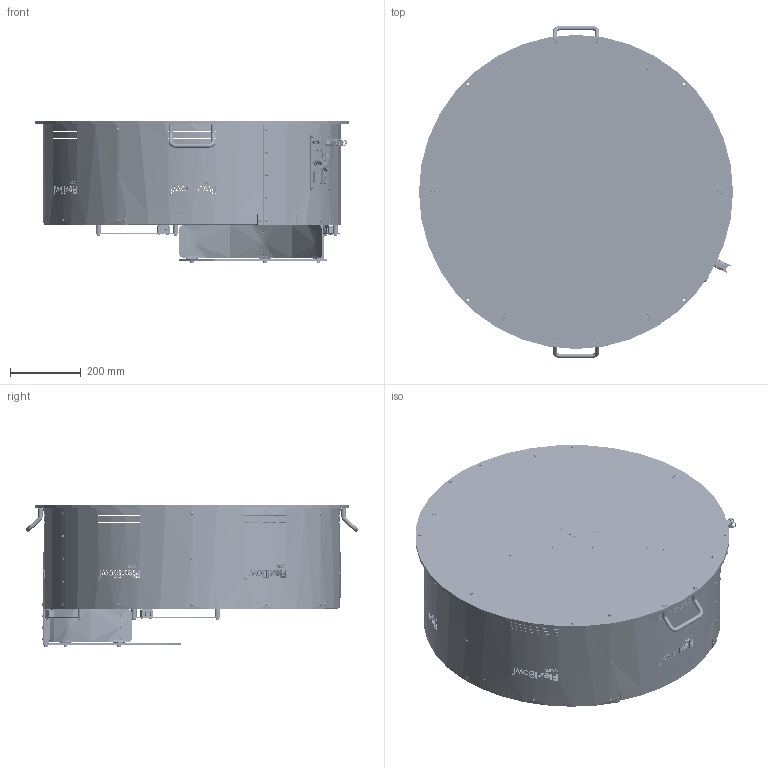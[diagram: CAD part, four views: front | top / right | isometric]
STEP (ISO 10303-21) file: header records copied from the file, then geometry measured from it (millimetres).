
FILE_DESCRIPTION (( 'STEP AP214' ), '1' );
FILE_NAME ('FB800C Quick emptying.STEP', '2021-09-09T13:59:49', ( '' ), ( '' ), 'SwSTEP 2.0', 'SolidWorks 2020', '' );
FILE_SCHEMA (( 'AUTOMOTIVE_DESIGN' ));
Length unit declared in the file: millimetre
Products named in the file (90): Copia di Led RDY_FLT^CE000326; FB800C Quick emptying; CE000007; CM000099; CE000302; CM000728; PD001579; Copia di 15 poli femmina^CE000302; CM000166; CM000008_005; CM000050; PD001123; CM000686_001; PD001086; CM000179; CM000045; PD001736; CE000322; CM000015; CM000048; Copia di 1^CE000322; PD001122; PD001440; PD000137; PD000043; PD001585; Copia di 39-01-2025^CE000302; CM000051; CE000326; Copia di Connettore te 2 poli - Copia^CE000302; CM000025; CM000015_002; CE000325; PD001063; Copia di 2 - Copia^CE000322; CM000642; CM000212; CE000316; PD001583; CM000021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
Assembly tree (234 placements, depth 3):
  FB800C Quick emptying
    CM000032  x4
    CM000031  x9
    CM000170  x6
    CM000048  x27
    CM000478  x9
    CM000050  x3
    CM000166  x8
    CM000642  x4
    CM000035  x4
    CM000027  x4
    CM000091  x2
    CM000086  x15
    CM000051  x4
    CM000025  x4
    CM000043  x2
    CM000026  x10
    CM000024  x10
    CM000006  x4
    PD001086
    CM000001  x2
    PD001440  x6
    PD001569
    PD001744
    PD001736  x2
    PD001063
    PD001585  x3
    PD001583  x3
    PD001087
    PD001101
    PD000043  x4
    PD001123  x2
    PD001119  x2
    PD001124
    PD001122
    PD000709
    PD001360_FB800
    CE000007
    CM000015  x2
      CM000015_001
      CM000015_002
    CE000013  x2
    CE000005
    CM000008
      CM000008_001
      CM000008_003  x2
      CM000008_002
      CM000008_004
      CM000008_005
    CE000302
      Copia di connector_a-ds_25_pp-f^CE000302
      Copia di 15 poli femmina^CE000302
      Copia di connector_amet-15rs^CE000302
      Copia di Connettore te 2 poli - Copia^CE000302
      Copia di 39-01-2025^CE000302
    CE000030  x2
    CE000316
    CM000686
      CM000686_001
      CM000686_002
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Bounding box: 890 x 940.65 x 402.5 mm (x, y, z)
Volume: 14930013.1 mm3; surface area: 6004540.9 mm2
Topology: 255 solids, 274 shells, 14306 faces, 37052 edges, 23618 vertices
Faces by surface type: plane 6715, cylinder 3500, bspline 1957, cone 1479, torus 615, sphere 40
Entity records: 574220 total; most frequent: CARTESIAN_POINT 248807, ORIENTED_EDGE 57248, DIRECTION 45322, EDGE_CURVE 28826, VERTEX_POINT 18970, AXIS2_PLACEMENT_3D 16343, LINE 12636, VECTOR 12636
